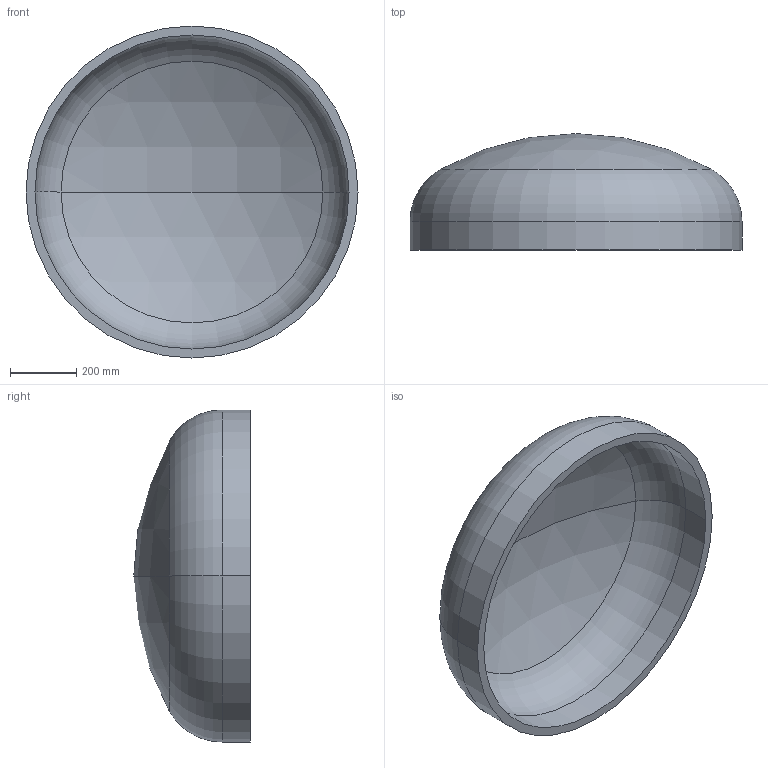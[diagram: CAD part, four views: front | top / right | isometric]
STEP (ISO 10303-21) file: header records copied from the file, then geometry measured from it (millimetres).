
FILE_DESCRIPTION (( 'STEP AP203' ), '1' );
FILE_NAME ('DIN 28013 Korbbogenform_-_Boden DIN 28013 - 1000 x 85 - I - s=27.step', '2016-07-01T08:45:56', ( '' ), ( '' ), 'SwSTEP 2.0', 'SolidWorks 2013', '' );
FILE_SCHEMA (( 'CONFIG_CONTROL_DESIGN' ));
Length unit declared in the file: millimetre
Products named in the file (1): DIN 28013 Korbbogenform_-_Boden DIN 28013 - 1000 x 85 - I - s=27
Bounding box: 1000 x 350.84 x 1000 mm (x, y, z)
Volume: 35401484.5 mm3; surface area: 2706391 mm2
Topology: 1 solids, 1 shells, 13 faces, 24 edges, 14 vertices
Faces by surface type: torus 4, cylinder 4, sphere 4, plane 1
Entity records: 407 total; most frequent: DIRECTION 72, CARTESIAN_POINT 52, ORIENTED_EDGE 48, AXIS2_PLACEMENT_3D 34, EDGE_CURVE 24, CIRCLE 20, EDGE_LOOP 14, VERTEX_POINT 14
